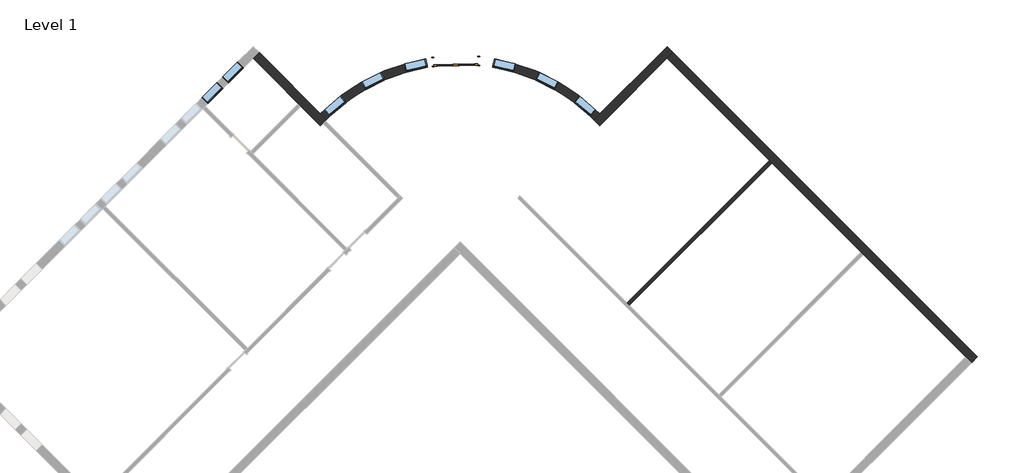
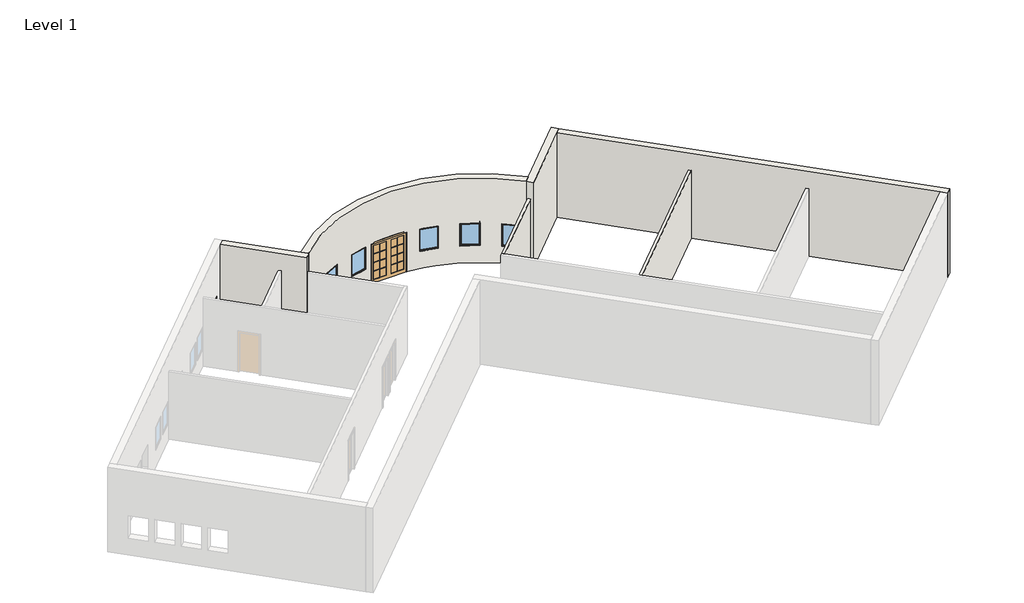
# One storey, part 2 of 2: 8 windows, 6 walls, 1 door.
"""IFC4 building model written with IfcOpenShell, lengths in millimetres."""

from ifc_helpers import new_model, si_unit, point, frame, frame_2d, origin, origin_with_axes, place, context, project, spatial, polyline, circle_curve, trimmed, segment, composite_curve, outline, extrude, faceted_brep, transform, mapped, element, save
from ifc_brep_helpers import plane_surface, cylinder_surface, revolved_surface, advanced_brep
from components import m_double_glass_2_1830_x_2134mm_ef281dce, m_fixed_0915_x_1220mm_bde29121, m_fixed_0915_x_1220mm_2a2509e7

model = new_model("IFC4")

# Units and contexts
model_context = context("Model", 3, world=origin())
ifc_project = project(units=[si_unit("LENGTHUNIT", "METRE", prefix="MILLI")], contexts=[model_context])

# Site, building, storey
site = spatial("IfcSite", under=ifc_project)
building = spatial("IfcBuilding", under=site)
storey = spatial("IfcBuildingStorey", under=building, Name="Level 1", Elevation=0.0)

# Door
placement = place(None, origin())
m_double_glass_2_1830_x_2134mm_shape = m_double_glass_2_1830_x_2134mm_ef281dce(model_context)
element("IfcDoor", 1, ObjectType="M_Double-Glass 2 : 1830 x 2134mm", at=placement, inside=storey, context=model_context, shape_type="MappedRepresentation", body=[
    mapped(m_double_glass_2_1830_x_2134mm_shape, transform((-1775.1372024, 9996.7407669, 0.0), x_axis=(-0.9997639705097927, -0.021725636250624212, 0.0), y_axis=(0.021725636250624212, -0.9997639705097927, 0.0), z_axis=(0.0, 0.0, 1.0))),
])

# Walls
element("IfcWall", 2, ObjectType="Exterior - Brick on Mtl. Stud", at=placement, inside=storey, context=model_context, shape_type="AdvancedBrep", body=[
    advanced_brep(
    [(4212.7441701, 7313.6674352, 4572.0), (4212.7441701, 7313.6674352, 0.0), (7019.8001803, 10120.7234455, 0.0), (7267.2875537, 10368.2108189, 0.0), (7267.2875537, 10368.2108189, 4572.0), (7019.8001803, 10120.7234455, 4572.0), (3970.7557398, 7566.6537518, 0.0), (3970.7557398, 7566.6537518, 4572.0), (4218.2431133, 7814.1411252, 4572.0), (7019.8001803, 10615.6981923, 4572.0), (7019.8001803, 10615.6981923, 0.0), (4218.2431133, 7814.1411252, 0.0), (4109.8638796, 7423.9826013, 0.0), (4013.5506313, 7523.5275434, 0.0)],
    [
        (0, 1),
        (1, 2),
        (2, 3),
        (3, 4),
        (4, 5),
        (5, 0),
        (6, 7),
        (7, 8),
        (8, 9),
        (9, 10),
        (10, 11),
        (11, 6),
        (1, 12, circle_curve(frame((-1601.2456959, 1994.6523161, 0.0), z_axis=(0.0, 0.0, 1.0), x_axis=(1.0, 0.0, 0.0)), 7880.0)),
        (12, 13, circle_curve(frame((-1601.2456959, 1994.6523161, 0.0), z_axis=(0.0, 0.0, 1.0), x_axis=(1.0, 0.0, 0.0)), 7879.9999955)),
        (13, 6, circle_curve(frame((-1601.2456959, 1994.6523161, 0.0), z_axis=(0.0, 0.0, 1.0), x_axis=(1.0, 0.0, 0.0)), 7879.9999413)),
        (10, 3),
        (4, 9),
        (7, 0, circle_curve(frame((-1601.2456959, 1994.6523161, 4572.0), z_axis=(0.0, 0.0, -1.0), x_axis=(1.0, 0.0, 0.0)), 7880.0)),
    ],
    [
        plane_surface(frame((4250.0629184, 7350.9861836, 0.0), z_axis=(0.7071067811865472, -0.7071067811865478, 0.0), x_axis=(0.7071067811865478, 0.7071067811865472, 0.0))),
        plane_surface(frame((4002.575545, 7598.473557, 0.0), z_axis=(-0.7071067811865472, 0.7071067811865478, 0.0), x_axis=(-0.7071067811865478, -0.7071067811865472, 0.0))),
        plane_surface(frame((4340.6424361, 7441.5657013, 0.0), z_axis=(0.0, 0.0, -1.0), x_axis=(-0.7071067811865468, 0.7071067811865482, 0.0))),
        plane_surface(frame((7143.543867, 10244.4671322, 4572.0), z_axis=(0.0, 0.0, 1.0), x_axis=(-0.707106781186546, 0.7071067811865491, 0.0))),
        plane_surface(frame((7019.8001803, 10615.6981923, 0.0), z_axis=(0.7071067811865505, 0.7071067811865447, 0.0), x_axis=(-0.7071067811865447, 0.7071067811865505, 0.0))),
        revolved_surface(polyline([(6278.7543041, 1994.6523161, 0.0), (6278.7543041, 1994.6523161, 4572.0)]), (-1601.2456959, 1994.6523161, 0.0), (0.0, 0.0, -1.0)),
    ],
    [
        (0, [[1, 2, 3, 4, 5, 6]]),
        (1, [[7, 8, 9, 10, 11, 12]]),
        (2, [[-3, -2, 13, 14, 15, -12, -11, 16]]),
        (3, [[-6, -5, 17, -9, -8, 18]]),
        (4, [[-4, -16, -10, -17]]),
        (5, [[-18, -7, -15, -14, -13, -1]]),
    ],
),
])
element("IfcWall", 3, ObjectType="Exterior - Brick on Mtl. Stud", at=placement, inside=storey, context=model_context, shape_type="Brep", body=[
    faceted_brep([(7019.8001803, 10120.7234455, 0.0), (11281.3559738, 5859.167652, 0.0), (11379.290263, 5761.2333628, 0.0), (15096.9041651, 2043.6194607, 0.0), (15194.8384543, 1945.6851715, 0.0), (19456.3942478, -2315.870622, 0.0), (19703.8816212, -2563.3579955, 0.0), (19703.8816212, -2563.3579955, 4572.0), (19456.3942478, -2315.870622, 4572.0), (7019.8001803, 10120.7234455, 4572.0), (7267.2875537, 10368.2108189, 0.0), (7267.2875537, 10368.2108189, 4572.0), (19951.3689947, -2315.870622, 4572.0), (19951.3689947, -2315.870622, 0.0)], [[[0, 1, 2, 3, 4, 5, 6, 7, 8, 9]], [[10, 11, 12, 13]], [[6, 5, 4, 3, 2, 1, 0, 10, 13]], [[9, 8, 7, 12, 11]], [[0, 9, 11, 10]], [[7, 6, 13, 12]]]),
])
element("IfcWall", 4, ObjectType="Exterior - Brick on Mtl. Stud", at=placement, inside=storey, context=model_context, shape_type="AdvancedBrep", body=[
    advanced_brep(
    [(-10222.2915721, 10120.7234455, 0.0), (-8331.6648159, 8230.0966893, 0.0), (-8233.7305267, 8132.1624001, 0.0), (-7415.2355619, 7313.6674352, 0.0), (-7415.2355619, 7313.6674352, 4572.0), (-10222.2915721, 10120.7234455, 4572.0), (-9974.8041987, 10368.2108189, 0.0), (-9974.8041987, 10368.2108189, 4572.0), (-7420.7345051, 7814.1411252, 4572.0), (-7173.2471317, 7566.6537518, 4572.0), (-7173.2471317, 7566.6537518, 0.0), (-7420.7345051, 7814.1411252, 0.0), (-7216.0420231, 7523.5275434, 0.0), (-7312.3552714, 7423.9826013, 0.0)],
    [
        (0, 1),
        (1, 2),
        (2, 3),
        (3, 4),
        (4, 5),
        (5, 0),
        (6, 7),
        (7, 8),
        (8, 9),
        (9, 10),
        (10, 11),
        (11, 6),
        (0, 6),
        (10, 12, circle_curve(frame((-1601.2456959, 1994.6523161, 0.0), z_axis=(0.0, 0.0, 1.0), x_axis=(1.0, 0.0, 0.0)), 7880.0)),
        (12, 13, circle_curve(frame((-1601.2456959, 1994.6523161, 0.0), z_axis=(0.0, 0.0, 1.0), x_axis=(1.0, 0.0, 0.0)), 7879.9999413)),
        (13, 3, circle_curve(frame((-1601.2456959, 1994.6523161, 0.0), z_axis=(0.0, 0.0, 1.0), x_axis=(1.0, 0.0, 0.0)), 7879.9999955)),
        (4, 9, circle_curve(frame((-1601.2456959, 1994.6523161, 4572.0), z_axis=(0.0, 0.0, -1.0), x_axis=(1.0, 0.0, 0.0)), 7880.0)),
        (7, 5),
    ],
    [
        plane_surface(frame((-10469.7789456, 10368.2108189, 0.0), z_axis=(-0.7071067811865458, -0.7071067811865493, 0.0), x_axis=(0.7071067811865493, -0.7071067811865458, 0.0))),
        plane_surface(frame((-10222.2915721, 10615.6981923, 0.0), z_axis=(0.7071067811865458, 0.7071067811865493, 0.0), x_axis=(-0.7071067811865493, 0.7071067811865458, 0.0))),
        plane_surface(frame((-10346.0352588, 10244.4671322, 0.0), z_axis=(0.0, 0.0, -1.0000000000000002), x_axis=(0.7071067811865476, 0.7071067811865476, 0.0))),
        plane_surface(frame((-7543.133828, 7441.5657013, 4572.0), z_axis=(0.0, 0.0, 1.0), x_axis=(0.707106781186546, 0.707106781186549, 0.0))),
        plane_surface(frame((-22906.3730131, -2563.3579955, 0.0), z_axis=(-0.7071067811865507, 0.7071067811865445, 0.0), x_axis=(0.7071067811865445, 0.7071067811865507, 0.0))),
        revolved_surface(polyline([(6278.7543041, 1994.6523161, 0.0), (6278.7543041, 1994.6523161, 4572.0)]), (-1601.2456959, 1994.6523161, 0.0), (0.0, 0.0, -1.0)),
    ],
    [
        (0, [[1, 2, 3, 4, 5, 6]]),
        (1, [[7, 8, 9, 10, 11, 12]]),
        (2, [[-3, -2, -1, 13, -12, -11, 14, 15, 16]]),
        (3, [[-5, 17, -9, -8, 18]]),
        (4, [[-6, -18, -7, -13]]),
        (5, [[-16, -15, -14, -10, -17, -4]]),
    ],
),
])
element("IfcWall", 5, ObjectType="Exterior - Brick on Mtl. Stud", at=placement, inside=storey, context=model_context, shape_type="AdvancedBrep", body=[
    advanced_brep(
    [(4218.2431133, 7814.1411252, 4572.0), (-7420.7345051, 7814.1411252, 4572.0), (-7173.2471317, 7566.6537518, 4572.0), (3970.7557398, 7566.6537518, 4572.0), (-7173.2471317, 7566.6537518, 0.0), (-7420.7345051, 7814.1411252, 0.0), (-2693.7232217, 10151.8205046, 0.0), (-2686.0696858, 9799.6223295, 0.0), (4218.2431133, 7814.1411252, 0.0), (3970.7557398, 7566.6537518, 0.0), (-856.5016198, 9839.3802439, 0.0), (-864.1551557, 10191.5784189, 0.0), (-864.1551557, 10191.5784189, 2134.0), (-2693.7232217, 10151.8205046, 2134.0), (-6560.8584073, 8562.3872188, 915.0), (-6560.8584073, 8562.3872188, 2135.0), (-7259.2688911, 7971.2461222, 2135.0), (-7259.2688911, 7971.2461222, 915.0), (-3038.6037285, 10098.1640169, 915.0), (-3038.6037285, 10098.1640169, 2135.0), (-3929.264468, 9888.5251676, 2135.0), (-3929.264468, 9888.5251676, 915.0), (-4890.6166492, 9538.7187747, 915.0), (-4890.6166492, 9538.7187747, 2135.0), (-5707.7291441, 9126.9516431, 2135.0), (-5707.7291441, 9126.9516431, 915.0), (1688.1252574, 9538.7187747, 915.0), (2505.2377523, 9126.9516431, 915.0), (2505.2377523, 9126.9516431, 2135.0), (1688.1252574, 9538.7187747, 2135.0), (-163.8876633, 10098.1640169, 915.0), (726.7730762, 9888.5251676, 915.0), (726.7730762, 9888.5251676, 2135.0), (-163.8876633, 10098.1640169, 2135.0), (3358.3670155, 8562.3872188, 915.0), (4056.7774992, 7971.2461222, 915.0), (4056.7774992, 7971.2461222, 2135.0), (3358.3670155, 8562.3872188, 2135.0), (-2686.0696858, 9799.6223295, 2134.0), (-856.5016198, 9839.3802439, 2134.0), (-6334.373084, 8294.8035149, 2135.0), (-6334.373084, 8294.8035149, 915.0), (-7032.7835678, 7703.6624182, 915.0), (-7032.7835678, 7703.6624182, 2135.0), (-2958.2842873, 9756.9230059, 2135.0), (-2958.2842873, 9756.9230059, 915.0), (-3848.9450268, 9547.2841566, 915.0), (-3848.9450268, 9547.2841566, 2135.0), (-4732.8553085, 9225.6564811, 915.0), (-5549.9678034, 8813.8893495, 915.0), (-5549.9678034, 8813.8893495, 2135.0), (-4732.8553085, 9225.6564811, 2135.0), (1530.3639167, 9225.6564811, 915.0), (1530.3639167, 9225.6564811, 2135.0), (2347.4764116, 8813.8893495, 2135.0), (2347.4764116, 8813.8893495, 915.0), (-244.2071045, 9756.9230059, 915.0), (-244.2071045, 9756.9230059, 2135.0), (646.453635, 9547.2841566, 2135.0), (646.453635, 9547.2841566, 915.0), (3131.8816922, 8294.8035149, 915.0), (3131.8816922, 8294.8035149, 2135.0), (3830.2921759, 7703.6624182, 2135.0), (3830.2921759, 7703.6624182, 915.0)],
    [
        (0, 1, circle_curve(frame((-1601.2456959, 1994.6523161, 4572.0), z_axis=(0.0, 0.0, 1.0), x_axis=(1.0, 0.0, 0.0)), 8230.0)),
        (1, 2),
        (2, 3, circle_curve(frame((-1601.2456959, 1994.6523161, 4572.0), z_axis=(0.0, 0.0, -1.0), x_axis=(1.0, 0.0, 0.0)), 7880.0)),
        (3, 0),
        (4, 5),
        (5, 6, circle_curve(frame((-1601.2456959, 1994.6523161, 0.0), z_axis=(0.0, 0.0, -1.0), x_axis=(1.0, 0.0, 0.0)), 8230.0)),
        (6, 7),
        (7, 4, circle_curve(frame((-1601.2456959, 1994.6523161, 0.0), z_axis=(0.0, 0.0, 1.0), x_axis=(1.0, 0.0, 0.0)), 7880.0)),
        (8, 9),
        (9, 10, circle_curve(frame((-1601.2456959, 1994.6523161, 0.0), z_axis=(0.0, 0.0, 1.0), x_axis=(1.0, 0.0, 0.0)), 7880.0)),
        (10, 11),
        (11, 8, circle_curve(frame((-1601.2456959, 1994.6523161, 0.0), z_axis=(0.0, 0.0, -1.0), x_axis=(1.0, 0.0, 0.0)), 8230.0)),
        (0, 8),
        (11, 12),
        (12, 13, circle_curve(frame((-1601.2456959, 1994.6523161, 2134.0), z_axis=(0.0, 0.0, 1.0), x_axis=(1.0, 0.0, 0.0)), 8230.0)),
        (13, 6),
        (5, 1),
        (14, 15),
        (15, 16, circle_curve(frame((-1601.2456959, 1994.6523161, 2135.0), z_axis=(0.0, 0.0, 1.0), x_axis=(1.0, 0.0, 0.0)), 8230.0)),
        (16, 17),
        (17, 14, circle_curve(frame((-1601.2456959, 1994.6523161, 915.0), z_axis=(0.0, 0.0, -1.0), x_axis=(1.0, 0.0, 0.0)), 8230.0)),
        (18, 19),
        (19, 20, circle_curve(frame((-1601.2456959, 1994.6523161, 2135.0), z_axis=(0.0, 0.0, 1.0), x_axis=(1.0, 0.0, 0.0)), 8230.0)),
        (20, 21),
        (21, 18, circle_curve(frame((-1601.2456959, 1994.6523161, 915.0), z_axis=(0.0, 0.0, -1.0), x_axis=(1.0, 0.0, 0.0)), 8230.0)),
        (22, 23),
        (23, 24, circle_curve(frame((-1601.2456959, 1994.6523161, 2135.0), z_axis=(0.0, 0.0, 1.0), x_axis=(1.0, 0.0, 0.0)), 8230.0)),
        (24, 25),
        (25, 22, circle_curve(frame((-1601.2456959, 1994.6523161, 915.0), z_axis=(0.0, 0.0, -1.0), x_axis=(1.0, 0.0, 0.0)), 8230.0)),
        (26, 27, circle_curve(frame((-1601.2456959, 1994.6523161, 915.0), z_axis=(0.0, 0.0, -1.0), x_axis=(1.0, 0.0, 0.0)), 8230.0)),
        (27, 28),
        (28, 29, circle_curve(frame((-1601.2456959, 1994.6523161, 2135.0), z_axis=(0.0, 0.0, 1.0), x_axis=(1.0, 0.0, 0.0)), 8230.0)),
        (29, 26),
        (30, 31, circle_curve(frame((-1601.2456959, 1994.6523161, 915.0), z_axis=(0.0, 0.0, -1.0), x_axis=(1.0, 0.0, 0.0)), 8230.0)),
        (31, 32),
        (32, 33, circle_curve(frame((-1601.2456959, 1994.6523161, 2135.0), z_axis=(0.0, 0.0, 1.0), x_axis=(1.0, 0.0, 0.0)), 8230.0)),
        (33, 30),
        (34, 35, circle_curve(frame((-1601.2456959, 1994.6523161, 915.0), z_axis=(0.0, 0.0, -1.0), x_axis=(1.0, 0.0, 0.0)), 8230.0)),
        (35, 36),
        (36, 37, circle_curve(frame((-1601.2456959, 1994.6523161, 2135.0), z_axis=(0.0, 0.0, 1.0), x_axis=(1.0, 0.0, 0.0)), 8230.0)),
        (37, 34),
        (2, 4),
        (7, 38),
        (38, 39, circle_curve(frame((-1601.2456959, 1994.6523161, 2134.0), z_axis=(0.0, 0.0, -1.0), x_axis=(1.0, 0.0, 0.0)), 7880.0)),
        (39, 10),
        (9, 3),
        (40, 41),
        (41, 42, circle_curve(frame((-1601.2456959, 1994.6523161, 915.0), z_axis=(0.0, 0.0, 1.0), x_axis=(1.0, 0.0, 0.0)), 7880.0)),
        (42, 43),
        (43, 40, circle_curve(frame((-1601.2456959, 1994.6523161, 2135.0), z_axis=(0.0, 0.0, -1.0), x_axis=(1.0, 0.0, 0.0)), 7880.0)),
        (44, 45),
        (45, 46, circle_curve(frame((-1601.2456959, 1994.6523161, 915.0), z_axis=(0.0, 0.0, 1.0), x_axis=(1.0, 0.0, 0.0)), 7880.0)),
        (46, 47),
        (47, 44, circle_curve(frame((-1601.2456959, 1994.6523161, 2135.0), z_axis=(0.0, 0.0, -1.0), x_axis=(1.0, 0.0, 0.0)), 7880.0)),
        (48, 49, circle_curve(frame((-1601.2456959, 1994.6523161, 915.0), z_axis=(0.0, 0.0, 1.0), x_axis=(1.0, 0.0, 0.0)), 7880.0)),
        (49, 50),
        (50, 51, circle_curve(frame((-1601.2456959, 1994.6523161, 2135.0), z_axis=(0.0, 0.0, -1.0), x_axis=(1.0, 0.0, 0.0)), 7880.0)),
        (51, 48),
        (52, 53),
        (53, 54, circle_curve(frame((-1601.2456959, 1994.6523161, 2135.0), z_axis=(0.0, 0.0, -1.0), x_axis=(1.0, 0.0, 0.0)), 7880.0)),
        (54, 55),
        (55, 52, circle_curve(frame((-1601.2456959, 1994.6523161, 915.0), z_axis=(0.0, 0.0, 1.0), x_axis=(1.0, 0.0, 0.0)), 7880.0)),
        (56, 57),
        (57, 58, circle_curve(frame((-1601.2456959, 1994.6523161, 2135.0), z_axis=(0.0, 0.0, -1.0), x_axis=(1.0, 0.0, 0.0)), 7880.0)),
        (58, 59),
        (59, 56, circle_curve(frame((-1601.2456959, 1994.6523161, 915.0), z_axis=(0.0, 0.0, 1.0), x_axis=(1.0, 0.0, 0.0)), 7880.0)),
        (60, 61),
        (61, 62, circle_curve(frame((-1601.2456959, 1994.6523161, 2135.0), z_axis=(0.0, 0.0, -1.0), x_axis=(1.0, 0.0, 0.0)), 7880.0)),
        (62, 63),
        (63, 60, circle_curve(frame((-1601.2456959, 1994.6523161, 915.0), z_axis=(0.0, 0.0, 1.0), x_axis=(1.0, 0.0, 0.0)), 7880.0)),
        (13, 38),
        (12, 39),
        (14, 41),
        (40, 15),
        (43, 16),
        (42, 17),
        (18, 45),
        (44, 19),
        (47, 20),
        (46, 21),
        (22, 48),
        (51, 23),
        (50, 24),
        (49, 25),
        (52, 26),
        (29, 53),
        (28, 54),
        (27, 55),
        (56, 30),
        (33, 57),
        (32, 58),
        (31, 59),
        (60, 34),
        (37, 61),
        (36, 62),
        (35, 63),
    ],
    [
        plane_surface(frame((6628.7543041, 1994.6523161, 4572.0), z_axis=(0.0, 0.0, 1.0), x_axis=(0.0, 1.0, 0.0))),
        plane_surface(frame((6628.7543041, 1994.6523161, 0.0), z_axis=(0.0, 0.0, -1.0), x_axis=(0.0, -1.0, 0.0))),
        cylinder_surface(frame((-1601.2456959, 1994.6523161, 0.0), z_axis=(0.0, 0.0, 1.0), x_axis=(1.0, 0.0, 0.0)), 8230.0),
        revolved_surface(polyline([(6278.7543041, 1994.6523161, 0.0), (6278.7543041, 1994.6523161, 4572.0)]), (-1601.2456959, 1994.6523161, 0.0), (0.0, 0.0, -1.0)),
        plane_surface(frame((-10222.2915721, 10615.6981923, 0.0), z_axis=(-0.7071067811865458, -0.7071067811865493, 0.0), x_axis=(-0.7071067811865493, 0.7071067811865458, 0.0))),
        plane_surface(frame((4002.575545, 7598.473557, 0.0), z_axis=(0.7071067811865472, -0.7071067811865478, 0.0), x_axis=(-0.7071067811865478, -0.7071067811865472, 0.0))),
        plane_surface(frame((-2726.8330914, 11675.4607956, 0.0), z_axis=(0.9997639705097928, 0.021725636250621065, 0.0), x_axis=(0.021725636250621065, -0.9997639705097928, 0.0))),
        plane_surface(frame((-2726.8330914, 11675.4607956, 2134.0), z_axis=(0.0, 0.0, -1.0000000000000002), x_axis=(0.021725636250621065, -0.9997639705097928, 0.0))),
        plane_surface(frame((-897.2650253, 11715.21871, 2134.0), z_axis=(-0.9997639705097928, -0.021725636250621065, 0.0), x_axis=(0.021725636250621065, -0.9997639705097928, 0.0))),
        plane_surface(frame((-6560.8584073, 8562.3872188, 915.0), z_axis=(-0.7632901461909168, -0.6460558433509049, 0.0), x_axis=(0.6460558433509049, -0.7632901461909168, 0.0))),
        plane_surface(frame((-6560.8584073, 8562.3872188, 2135.0), z_axis=(0.0, 0.0, -1.0000000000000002), x_axis=(0.6460558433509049, -0.7632901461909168, 0.0))),
        plane_surface(frame((-7259.2688911, 7971.2461222, 2135.0), z_axis=(0.7632901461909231, 0.6460558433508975, 0.0), x_axis=(0.6460558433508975, -0.7632901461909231, 0.0))),
        plane_surface(frame((-7259.2688911, 7971.2461222, 915.0), z_axis=(0.0, 0.0, 1.0), x_axis=(0.6460558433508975, -0.7632901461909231, 0.0))),
        plane_surface(frame((-2689.4347599, 8614.7028508, 915.0), z_axis=(-0.9733997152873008, -0.22911349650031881, 0.0), x_axis=(-0.22911349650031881, 0.9733997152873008, 0.0))),
        plane_surface(frame((-2689.4347599, 8614.7028508, 2135.0), z_axis=(0.0, 0.0, -1.0), x_axis=(-0.22911349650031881, 0.9733997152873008, 0.0))),
        plane_surface(frame((-3580.0954993, 8405.0640015, 2135.0), z_axis=(0.9733997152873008, 0.2291134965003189, 0.0), x_axis=(-0.2291134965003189, 0.9733997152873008, 0.0))),
        plane_surface(frame((-3580.0954993, 8405.0640015, 915.0), z_axis=(0.0, 0.0, 1.0), x_axis=(-0.2291134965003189, 0.9733997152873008, 0.0))),
        plane_surface(frame((-4890.6166492, 9538.7187747, 915.0), z_axis=(-0.893019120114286, -0.4500187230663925, 0.0), x_axis=(0.4500187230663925, -0.893019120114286, 0.0))),
        plane_surface(frame((-4890.6166492, 9538.7187747, 2135.0), z_axis=(0.0, 0.0, -1.0), x_axis=(0.4500187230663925, -0.893019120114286, 0.0))),
        plane_surface(frame((-5707.7291441, 9126.9516431, 2135.0), z_axis=(0.8930191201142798, 0.4500187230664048, 0.0), x_axis=(0.4500187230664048, -0.8930191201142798, 0.0))),
        plane_surface(frame((-5707.7291441, 9126.9516431, 915.0), z_axis=(0.0, 0.0, 1.0), x_axis=(0.4500187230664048, -0.8930191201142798, 0.0))),
        plane_surface(frame((1530.3639167, 9225.6564811, 915.0), z_axis=(0.8930191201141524, -0.4500187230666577, 0.0), x_axis=(0.4500187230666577, 0.8930191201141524, 0.0))),
        plane_surface(frame((1530.3639167, 9225.6564811, 2135.0), z_axis=(0.0, 0.0, -1.0), x_axis=(0.4500187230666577, 0.8930191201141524, 0.0))),
        plane_surface(frame((2347.4764116, 8813.8893495, 2135.0), z_axis=(-0.8930191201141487, 0.45001872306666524, 0.0), x_axis=(0.45001872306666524, 0.8930191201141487, 0.0))),
        plane_surface(frame((2347.4764116, 8813.8893495, 915.0), z_axis=(0.0, 0.0, 1.0000000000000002), x_axis=(0.45001872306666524, 0.8930191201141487, 0.0))),
        plane_surface(frame((-244.2071045, 9756.9230059, 915.0), z_axis=(0.9733997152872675, -0.2291134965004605, 0.0), x_axis=(0.2291134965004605, 0.9733997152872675, 0.0))),
        plane_surface(frame((-244.2071045, 9756.9230059, 2135.0), z_axis=(0.0, 0.0, -1.0), x_axis=(0.2291134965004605, 0.9733997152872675, 0.0))),
        plane_surface(frame((646.453635, 9547.2841566, 2135.0), z_axis=(-0.9733997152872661, 0.22911349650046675, 0.0), x_axis=(0.22911349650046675, 0.9733997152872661, 0.0))),
        plane_surface(frame((646.453635, 9547.2841566, 915.0), z_axis=(0.0, 0.0, 1.0000000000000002), x_axis=(0.22911349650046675, 0.9733997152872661, 0.0))),
        plane_surface(frame((3131.8816922, 8294.8035149, 915.0), z_axis=(0.7632901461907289, -0.646055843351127, 0.0), x_axis=(0.646055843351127, 0.7632901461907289, 0.0))),
        plane_surface(frame((3131.8816922, 8294.8035149, 2135.0), z_axis=(0.0, 0.0, -1.0), x_axis=(0.646055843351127, 0.7632901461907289, 0.0))),
        plane_surface(frame((3830.2921759, 7703.6624182, 2135.0), z_axis=(-0.7632901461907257, 0.6460558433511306, 0.0), x_axis=(0.6460558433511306, 0.7632901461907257, 0.0))),
        plane_surface(frame((3830.2921759, 7703.6624182, 915.0), z_axis=(0.0, 0.0, 1.0), x_axis=(0.6460558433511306, 0.7632901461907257, 0.0))),
    ],
    [
        (0, [[1, 2, 3, 4]]),
        (1, [[5, 6, 7, 8]]),
        (1, [[9, 10, 11, 12]]),
        (2, [[-1, 13, -12, 14, 15, 16, -6, 17], [18, 19, 20, 21], [22, 23, 24, 25], [26, 27, 28, 29], [30, 31, 32, 33], [34, 35, 36, 37], [38, 39, 40, 41]]),
        (3, [[-3, 42, -8, 43, 44, 45, -10, 46], [47, 48, 49, 50], [51, 52, 53, 54], [55, 56, 57, 58], [59, 60, 61, 62], [63, 64, 65, 66], [67, 68, 69, 70]]),
        (4, [[-2, -17, -5, -42]]),
        (5, [[-4, -46, -9, -13]]),
        (6, [[71, -43, -7, -16]]),
        (7, [[-71, -15, 72, -44]]),
        (8, [[-72, -14, -11, -45]]),
        (9, [[-18, 73, -47, 74]]),
        (10, [[-19, -74, -50, 75]]),
        (11, [[-20, -75, -49, 76]]),
        (12, [[-21, -76, -48, -73]]),
        (13, [[77, -51, 78, -22]]),
        (14, [[-78, -54, 79, -23]]),
        (15, [[-79, -53, 80, -24]]),
        (16, [[-77, -25, -80, -52]]),
        (17, [[-26, 81, -58, 82]]),
        (18, [[-27, -82, -57, 83]]),
        (19, [[-28, -83, -56, 84]]),
        (20, [[-29, -84, -55, -81]]),
        (21, [[-59, 85, -33, 86]]),
        (22, [[-60, -86, -32, 87]]),
        (23, [[-61, -87, -31, 88]]),
        (24, [[-62, -88, -30, -85]]),
        (25, [[-63, 89, -37, 90]]),
        (26, [[-64, -90, -36, 91]]),
        (27, [[-65, -91, -35, 92]]),
        (28, [[-66, -92, -34, -89]]),
        (29, [[-67, 93, -41, 94]]),
        (30, [[-68, -94, -40, 95]]),
        (31, [[-69, -95, -39, 96]]),
        (32, [[-70, -96, -38, -93]]),
    ],
),
])
element("IfcWall", 6, ObjectType="Interior - 138mm Partition (1-hr)", at=placement, inside=storey, context=model_context, shape_type="SweptSolid", body=[
    extrude(outline(composite_curve([segment(polyline([(4109.8652288, 7423.9811885), (991.3613173, 4305.477277), (893.4270281, 4403.4115662), (4013.5468892, 7523.5314273)]), True, "CONTINUOUS"), segment(trimmed(circle_curve(frame_2d((-1601.2456959, 1994.6523161)), 7880.0), [point((4013.5468892, 7523.5314273))], [point((4109.8652288, 7423.9811885))], False, "CARTESIAN"), True, "CONTINUOUS")], self_intersect=False)), origin_with_axes(), (0.0, 0.0, 1.0), 3658.0),
])
element("IfcWall", 7, ObjectType="Interior - 138mm Partition (1-hr)", at=placement, inside=storey, context=model_context, shape_type="SweptSolid", body=[
    extrude(outline(polyline([(11379.290263, 5761.2333628), (5457.4477473, -160.609153), (5359.5134581, -62.6748638), (11281.3559738, 5859.167652), (11379.290263, 5761.2333628)])), origin_with_axes(), (0.0, 0.0, 1.0), 3658.0),
])

# Windows
m_fixed_0915_x_1220mm_shape = m_fixed_0915_x_1220mm_bde29121(model_context)
element("IfcWindow", 8, ObjectType="M_Fixed : 0915 x 1220mm", at=placement, inside=storey, context=model_context, shape_type="MappedRepresentation", body=[
    mapped(m_fixed_0915_x_1220mm_shape, transform((-6805.4026025, 8143.1636668, 0.0), x_axis=(-0.7632901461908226, -0.6460558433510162, 0.0), y_axis=(0.6460558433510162, -0.7632901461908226, 0.0), z_axis=(0.0, 0.0, 1.0))),
])
element("IfcWindow", 9, ObjectType="M_Fixed : 0915 x 1220mm", at=placement, inside=storey, context=model_context, shape_type="MappedRepresentation", body=[
    mapped(m_fixed_0915_x_1220mm_shape, transform((-3446.8177118, 9835.6538384, 0.0), x_axis=(-0.9733997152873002, -0.22911349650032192, 0.0), y_axis=(0.22911349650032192, -0.9733997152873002, 0.0), z_axis=(0.0, 0.0, 1.0))),
])
element("IfcWindow", 10, ObjectType="M_Fixed : 0915 x 1220mm", at=placement, inside=storey, context=model_context, shape_type="MappedRepresentation", body=[
    mapped(m_fixed_0915_x_1220mm_shape, transform((-5226.2698635, 9188.1661114, 0.0), x_axis=(-0.8930191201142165, -0.45001872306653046, 0.0), y_axis=(0.45001872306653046, -0.8930191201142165, 0.0), z_axis=(0.0, 0.0, 1.0))),
])
m_fixed_0915_x_1220mm_2_shape = m_fixed_0915_x_1220mm_2a2509e7(model_context)
element("IfcWindow", 11, ObjectType="M_Fixed : 0915 x 1220mm", at=placement, inside=storey, context=model_context, shape_type="MappedRepresentation", body=[
    mapped(m_fixed_0915_x_1220mm_2_shape, transform((-11061.6273214, 9547.2598459, 0.0), x_axis=(0.7071067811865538, 0.7071067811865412, 0.0), y_axis=(-0.7071067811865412, 0.7071067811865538, 0.0), z_axis=(0.0, 0.0, 1.0))),
])
element("IfcWindow", 12, ObjectType="M_Fixed : 0915 x 1220mm", at=placement, inside=storey, context=model_context, shape_type="MappedRepresentation", body=[
    mapped(m_fixed_0915_x_1220mm_2_shape, transform((-11924.2975945, 8684.5895729, 0.0), x_axis=(0.7071067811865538, 0.7071067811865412, 0.0), y_axis=(-0.7071067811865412, 0.7071067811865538, 0.0), z_axis=(0.0, 0.0, 1.0))),
])
element("IfcWindow", 13, ObjectType="M_Fixed : 0915 x 1220mm", at=placement, inside=storey, context=model_context, shape_type="MappedRepresentation", body=[
    mapped(m_fixed_0915_x_1220mm_2_shape, transform((3602.9112107, 8143.1636668, 0.0), x_axis=(0.7632901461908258, -0.6460558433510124, 0.0), y_axis=(0.6460558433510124, 0.7632901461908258, 0.0), z_axis=(0.0, 0.0, 1.0))),
])
element("IfcWindow", 14, ObjectType="M_Fixed : 0915 x 1220mm", at=placement, inside=storey, context=model_context, shape_type="MappedRepresentation", body=[
    mapped(m_fixed_0915_x_1220mm_2_shape, transform((244.32632, 9835.6538384, 0.0), x_axis=(0.9733997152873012, -0.2291134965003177, 0.0), y_axis=(0.2291134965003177, 0.9733997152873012, 0.0), z_axis=(0.0, 0.0, 1.0))),
])
element("IfcWindow", 15, ObjectType="M_Fixed : 0915 x 1220mm", at=placement, inside=storey, context=model_context, shape_type="MappedRepresentation", body=[
    mapped(m_fixed_0915_x_1220mm_2_shape, transform((2023.7784717, 9188.1661114, 0.0), x_axis=(0.8930191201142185, -0.4500187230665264, 0.0), y_axis=(0.4500187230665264, 0.8930191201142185, 0.0), z_axis=(0.0, 0.0, 1.0))),
])

save(model, "model.ifc")
